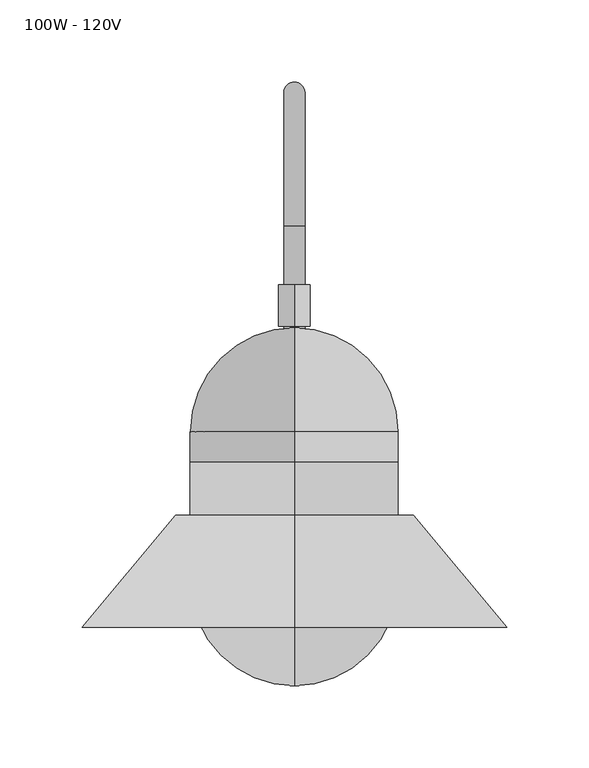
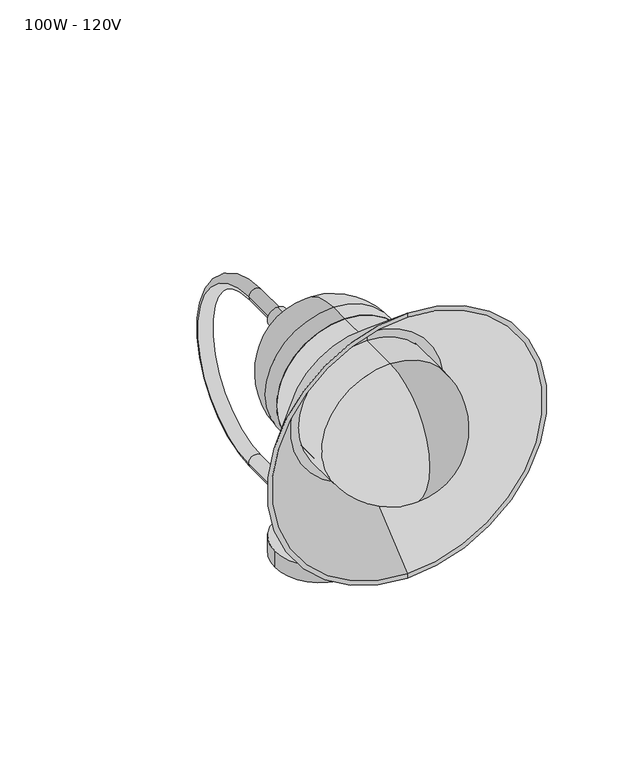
"""IFC4 building model written with IfcOpenShell, lengths in millimetres: light fixture geometry, M_Luminária de parede - Arandela : 100W - 120V."""

import ifcopenshell
import ifcopenshell.guid

model = None  # the IFC model being written
_history = None  # IfcOwnerHistory: only IFC2X3 demands one
_inside = {}  # id of a spatial element -> (the spatial element, [elements in it])
_under = {}  # id of a project, library or spatial element -> (it, [spatial elements below it])
_declared = {}  # id of a project -> (the project, [libraries it declares])
_typed = {}  # id of a type object -> (the type object, [elements of that type])
_made_of = {}  # id of a material, layer set ... -> (it, [elements and type objects made of it])


def new_model(schema):
    """Start an empty IFC model of exactly this schema.

    Asked for "IFC4X3", IfcOpenShell would pick the latest addendum, in which some entities
    have other attributes; the version numbers below select the first issue.
    IFC2X3 requires an IfcOwnerHistory on every rooted entity: one is made here for all.
    """
    global model, _history
    if schema == "IFC4X3":
        model = ifcopenshell.file(schema_version=(4, 3, 0, 0))
    else:
        model = ifcopenshell.file(schema=schema)
    _inside.clear()
    _under.clear()
    _declared.clear()
    _typed.clear()
    _made_of.clear()
    _history = None
    if model.schema == "IFC2X3":
        org = make("IfcOrganization", Name="unknown")
        user = make(
            "IfcPersonAndOrganization",
            ThePerson=make("IfcPerson", FamilyName="unknown"),
            TheOrganization=org,
        )
        app = make(
            "IfcApplication",
            ApplicationDeveloper=org,
            Version="unknown",
            ApplicationFullName="unknown",
            ApplicationIdentifier="unknown",
        )
        _history = make(
            "IfcOwnerHistory",
            OwningUser=user,
            OwningApplication=app,
            ChangeAction="ADDED",
            CreationDate=0,
        )
    return model


def make(cls, **values):
    """One entity of the class cls with the attributes given. An attribute that is None is left unset."""
    return model.create_entity(
        cls, **{name: value for name, value in values.items() if value is not None}
    )


def rooted(cls, **values):
    """An entity with a GlobalId (a new one), such as an element, a storey or a relation."""
    return make(cls, GlobalId=ifcopenshell.guid.new(), OwnerHistory=_history, **values)


def si_unit(unit_type, name, prefix=None):
    """IfcSIUnit, for example si_unit("LENGTHUNIT", "METRE", prefix="MILLI")."""
    return make("IfcSIUnit", UnitType=unit_type, Prefix=prefix, Name=name)


def assignment(units):
    """IfcUnitAssignment: the units of a project."""
    return None if units is None else make("IfcUnitAssignment", Units=units)


def point(xyz):
    """IfcCartesianPoint."""
    return None if xyz is None else make("IfcCartesianPoint", Coordinates=xyz)


def direction(xyz):
    """IfcDirection."""
    return None if xyz is None else make("IfcDirection", DirectionRatios=xyz)


def frame(location, z_axis=None, x_axis=None):
    """IfcAxis2Placement3D, a coordinate frame: its origin and axes. An axis left out is left unset."""
    return make(
        "IfcAxis2Placement3D",
        Location=point(location),
        Axis=direction(z_axis),
        RefDirection=direction(x_axis),
    )


def origin():
    """The frame at (0, 0, 0) with its axes left unset."""
    return frame((0.0, 0.0, 0.0))


def origin_with_axes():
    """The frame at (0, 0, 0) with the z axis (0, 0, 1) and the x axis (1, 0, 0) written out."""
    return frame((0.0, 0.0, 0.0), z_axis=(0.0, 0.0, 1.0), x_axis=(1.0, 0.0, 0.0))


def place(relative_to, where):
    """IfcLocalPlacement: puts the frame where relative to a parent placement (None: the world)."""
    return make(
        "IfcLocalPlacement", PlacementRelTo=relative_to, RelativePlacement=where
    )


def context(
    kind, dimensions, precision=None, world=None, true_north=None, identifier=None
):
    """IfcGeometricRepresentationContext, for example the 3D "Model" context."""
    return make(
        "IfcGeometricRepresentationContext",
        ContextIdentifier=identifier,
        ContextType=kind,
        CoordinateSpaceDimension=dimensions,
        Precision=precision,
        WorldCoordinateSystem=world,
        TrueNorth=true_north,
    )


def project(units=None, contexts=None):
    """IfcProject with its units and contexts."""
    return rooted(
        "IfcProject",
        Name="project",
        RepresentationContexts=contexts,
        UnitsInContext=assignment(units),
    )


def spatial(cls, under=None, at=None, **own):
    """A site, building, storey or space (cls), placed at a placement, below another one or the project."""
    s = rooted(cls, ObjectPlacement=at, **own)
    if under is not None:
        _under.setdefault(under.id(), (under, []))[1].append(s)
    return s


def polyline(points):
    """IfcPolyline through the points."""
    return make("IfcPolyline", Points=[point(p) for p in points])


def circle_curve(where, radius):
    """IfcCircle in the frame where."""
    return make("IfcCircle", Position=where, Radius=radius)


def ellipse_curve(where, semi_axis1, semi_axis2):
    """IfcEllipse in the frame where."""
    return make(
        "IfcEllipse", Position=where, SemiAxis1=semi_axis1, SemiAxis2=semi_axis2
    )


def trimmed(basis, trim1, trim2, sense, master):
    """IfcTrimmedCurve: the piece of a basis curve between two trims."""
    return make(
        "IfcTrimmedCurve",
        BasisCurve=basis,
        Trim1=trim1,
        Trim2=trim2,
        SenseAgreement=sense,
        MasterRepresentation=master,
    )


def shape(context_of_items, identifier, shape_type, items):
    """IfcShapeRepresentation: the items that make up one representation, for example the "Body"."""
    return make(
        "IfcShapeRepresentation",
        ContextOfItems=context_of_items,
        RepresentationIdentifier=identifier,
        RepresentationType=shape_type,
        Items=items,
    )


def source(mapping_origin, context_of_items, identifier, shape_type, items):
    """IfcRepresentationMap: a shape defined once, which mapped items show again and again."""
    return make(
        "IfcRepresentationMap",
        MappingOrigin=mapping_origin,
        MappedRepresentation=shape(context_of_items, identifier, shape_type, items),
    )


def transform(
    local_origin,
    x_axis=None,
    y_axis=None,
    z_axis=None,
    scale=None,
    scale2=None,
    scale3=None,
    uniform=True,
):
    """IfcCartesianTransformationOperator3D, or its non-uniform kind. x_axis, y_axis, z_axis: its Axis1, 2, 3."""
    if uniform:
        return make(
            "IfcCartesianTransformationOperator3D",
            Axis1=direction(x_axis),
            Axis2=direction(y_axis),
            LocalOrigin=point(local_origin),
            Scale=scale,
            Axis3=direction(z_axis),
        )
    return make(
        "IfcCartesianTransformationOperator3DnonUniform",
        Axis1=direction(x_axis),
        Axis2=direction(y_axis),
        LocalOrigin=point(local_origin),
        Scale=scale,
        Axis3=direction(z_axis),
        Scale2=scale2,
        Scale3=scale3,
    )


def mapped(mapping_source, mapping_target):
    """IfcMappedItem: shows the shape of a source again, moved by a transform."""
    return make(
        "IfcMappedItem", MappingSource=mapping_source, MappingTarget=mapping_target
    )


def made_of(thing, what):
    """Note that an element or type object is made of a material, layer set ...; save() writes the relation."""
    if what is not None:
        _made_of.setdefault(what.id(), (what, []))[1].append(thing)
    return thing


def element(
    cls,
    number,
    at=None,
    inside=None,
    cuts=None,
    type_object=None,
    material=None,
    context=None,
    identifier="Body",
    shape_type=None,
    held_by="IfcProductDefinitionShape",
    body=None,
    shapes=None,
    **own,
):
    """One element of the class cls, such as IfcWall. Its Tag is "e" and its number.

    at: its placement. inside: the storey or other place that contains it. cuts: it is an
    opening in that element (IfcRelVoidsElement). A single representation is given by context,
    identifier, shape_type and body (its items); several are given by shapes. held_by: the class
    of the entity that holds the representations. save() writes the other relations.
    """
    e = rooted(cls, Tag="e%d" % number, ObjectPlacement=at, **own)
    if body is not None:
        shapes = [shape(context, identifier, shape_type, body)]
    if shapes is not None:
        e.Representation = make(held_by, Representations=shapes)
    if inside is not None:
        _inside.setdefault(inside.id(), (inside, []))[1].append(e)
    if cuts is not None:
        rooted(
            "IfcRelVoidsElement", RelatingBuildingElement=cuts, RelatedOpeningElement=e
        )
    if type_object is not None:
        _typed.setdefault(type_object.id(), (type_object, []))[1].append(e)
    return made_of(e, material)


def aggregate(whole, parts):
    """IfcRelAggregates: a whole, such as a stair, and the parts it consists of."""
    return rooted("IfcRelAggregates", RelatingObject=whole, RelatedObjects=parts)


def save(model, path):
    """Write the relations noted so far, then the file.

    IfcRelAggregates (storeys below a building ...), IfcRelContainedInSpatialStructure (elements
    in a storey), IfcRelDefinesByType, IfcRelAssociatesMaterial and IfcRelDeclares: one each for
    every whole, place, type object, material and project.
    """
    for whole, parts in _under.values():
        aggregate(whole, parts)
    for where, things in _inside.values():
        rooted(
            "IfcRelContainedInSpatialStructure",
            RelatedElements=things,
            RelatingStructure=where,
        )
    for kind, things in _typed.values():
        rooted("IfcRelDefinesByType", RelatedObjects=things, RelatingType=kind)
    for what, things in _made_of.values():
        rooted("IfcRelAssociatesMaterial", RelatedObjects=things, RelatingMaterial=what)
    for by, libraries in _declared.values():
        rooted("IfcRelDeclares", RelatingContext=by, RelatedDefinitions=libraries)
    model.write(path)


def plane_surface(at):
    """IfcPlane: the flat surface through the origin of the frame at, square to its z axis."""
    return make("IfcPlane", Position=at)


def cylinder_surface(at, radius):
    """IfcCylindricalSurface: all points at the distance radius from the z axis of the frame at."""
    return make("IfcCylindricalSurface", Position=at, Radius=radius)


def revolved_surface(curve, axis_point, axis_direction):
    """IfcSurfaceOfRevolution: the curve turned about the line through axis_point along axis_direction."""
    return make(
        "IfcSurfaceOfRevolution",
        SweptCurve=make("IfcArbitraryOpenProfileDef", ProfileType="CURVE", Curve=curve),
        AxisPosition=make("IfcAxis1Placement", Location=point(axis_point), Axis=direction(axis_direction)),
    )


def advanced_brep(points, edges, surfaces, faces):
    """IfcAdvancedBrep: a solid bounded by faces that lie on surfaces and meet in shared edges.

    An edge is (start, end): straight between two places in points (the first is 0);
    or (start, end, curve); or (start, end, curve, False) where it runs against its curve.
    A face is (place in surfaces, loops), or (place, loops, False) where it looks against
    its surface's normal. A loop lists edges by number (the first is 1), with a minus sign
    where the edge is run from its end to its start. The first loop is the outer one.
    """
    corners = [point(p) for p in points]
    vertices = [make("IfcVertexPoint", VertexGeometry=c) for c in corners]
    made = []
    for start, end, *more in edges:
        made.append(
            make(
                "IfcEdgeCurve",
                EdgeStart=vertices[start],
                EdgeEnd=vertices[end],
                EdgeGeometry=more[0] if more else make("IfcPolyline", Points=[corners[start], corners[end]]),
                SameSense=more[1] if len(more) > 1 else True,
            )
        )
    hull = []
    for where, loops, *sense in faces:
        bounds = []
        for j, loop in enumerate(loops):
            ring = [make("IfcOrientedEdge", EdgeElement=made[abs(k) - 1], Orientation=k > 0) for k in loop]
            bounds.append(
                make(
                    "IfcFaceOuterBound" if j == 0 else "IfcFaceBound",
                    Bound=make("IfcEdgeLoop", EdgeList=ring),
                    Orientation=True,
                )
            )
        hull.append(make("IfcAdvancedFace", Bounds=bounds, FaceSurface=surfaces[where], SameSense=sense[0] if sense else True))
    return make("IfcAdvancedBrep", Outer=make("IfcClosedShell", CfsFaces=hull))


def light_fixture_100w_120v_0846f9e9(model_context):
    return source(origin(), model_context, "Body", "AdvancedBrep", [
        advanced_brep(
        [(0.0, 27.78125, 15.875), (0.0, 27.78125, 34.925), (0.0, 27.78125, 31.75), (-6.35, 27.78125, 25.4), (0.0, 27.78125, 19.05), (6.35, 27.78125, 25.4), (0.0, 0.0, 34.925), (0.0, 0.0, 15.875), (0.0, -9.525, 25.4), (6.35, 105.56875, 25.4), (-6.35, 105.56875, 25.4), (6.35, 105.56875, 188.9125), (-6.35, 105.56875, 188.9125), (6.35, 69.85, 188.9125), (0.0, 69.85, 182.5625), (-6.35, 69.85, 188.9125), (0.0, 69.85, 195.2625), (0.0, 44.45, 198.4375), (0.0, 44.45, 179.3875), (0.0, 44.45, 188.9125), (0.0, 69.85, 198.4375), (0.0, 69.85, 179.3875)],
        [
            (0, 1, circle_curve(frame((0.0, 27.78125, 25.4), z_axis=(0.0, 1.0, 0.0), x_axis=(0.0, 0.0, -1.0)), 9.525)),
            (1, 2),
            (2, 3, circle_curve(frame((0.0, 27.78125, 25.4), z_axis=(0.0, -1.0, 0.0), x_axis=(-1.0, 0.0, 0.0)), 6.35)),
            (3, 4, circle_curve(frame((0.0, 27.78125, 25.4), z_axis=(0.0, -1.0, 0.0), x_axis=(-1.0, 0.0, 0.0)), 6.35)),
            (4, 0),
            (1, 0, circle_curve(frame((0.0, 27.78125, 25.4), z_axis=(0.0, 1.0, 0.0), x_axis=(0.0, 0.0, -1.0)), 9.525)),
            (4, 5, circle_curve(frame((0.0, 27.78125, 25.4), z_axis=(0.0, -1.0, 0.0), x_axis=(-1.0, 0.0, 0.0)), 6.35)),
            (5, 2, circle_curve(frame((0.0, 27.78125, 25.4), z_axis=(0.0, -1.0, 0.0), x_axis=(-1.0, 0.0, 0.0)), 6.35)),
            (6, 7, circle_curve(frame((0.0, 0.0, 25.4), z_axis=(0.0, -1.0, 0.0), x_axis=(0.0, 0.0, -1.0)), 9.525)),
            (7, 8, circle_curve(frame((0.0, 0.0, 25.4), z_axis=(-1.0, 0.0, 0.0), x_axis=(0.0, -1.0, 0.0)), 9.525)),
            (8, 6, circle_curve(frame((0.0, 0.0, 25.4), z_axis=(-1.0, 0.0, 0.0), x_axis=(0.0, -1.0, 0.0)), 9.525)),
            (7, 6, circle_curve(frame((0.0, 0.0, 25.4), z_axis=(0.0, -1.0, 0.0), x_axis=(0.0, 0.0, -1.0)), 9.525)),
            (0, 7),
            (6, 1),
            (9, 10, circle_curve(frame((0.0, 105.56875, 25.4), z_axis=(0.0, -1.0, 0.0), x_axis=(-1.0, 0.0, 0.0)), 6.35)),
            (10, 3),
            (5, 9),
            (10, 9, circle_curve(frame((0.0, 105.56875, 25.4), z_axis=(0.0, -1.0, 0.0), x_axis=(-1.0, 0.0, 0.0)), 6.35)),
            (9, 11, circle_curve(frame((6.35, 105.56875, 107.15625), z_axis=(1.0, 0.0, 0.0), x_axis=(0.0, 0.0, -1.0)), 81.75625)),
            (11, 12, circle_curve(frame((0.0, 105.56875, 188.9125), z_axis=(0.0, 1.0, 0.0), x_axis=(-1.0, 0.0, 0.0)), 6.35)),
            (12, 10, circle_curve(frame((-6.35, 105.56875, 107.15625), z_axis=(-1.0, 0.0, 0.0), x_axis=(0.0, 0.0, -1.0)), 81.75625)),
            (12, 11, circle_curve(frame((0.0, 105.56875, 188.9125), z_axis=(0.0, 1.0, 0.0), x_axis=(-1.0, 0.0, 0.0)), 6.35)),
            (11, 13),
            (13, 14, circle_curve(frame((0.0, 69.85, 188.9125), z_axis=(0.0, 1.0, 0.0), x_axis=(-1.0, 0.0, 0.0)), 6.35)),
            (14, 15, circle_curve(frame((0.0, 69.85, 188.9125), z_axis=(0.0, 1.0, 0.0), x_axis=(-1.0, 0.0, 0.0)), 6.35)),
            (15, 12),
            (15, 16, circle_curve(frame((0.0, 69.85, 188.9125), z_axis=(0.0, 1.0, 0.0), x_axis=(-1.0, 0.0, 0.0)), 6.35)),
            (16, 13, circle_curve(frame((0.0, 69.85, 188.9125), z_axis=(0.0, 1.0, 0.0), x_axis=(-1.0, 0.0, 0.0)), 6.35)),
            (17, 18, circle_curve(frame((0.0, 44.45, 188.9125), z_axis=(0.0, -1.0, 0.0), x_axis=(0.0, 0.0, -1.0)), 9.525)),
            (18, 19),
            (19, 17),
            (18, 17, circle_curve(frame((0.0, 44.45, 188.9125), z_axis=(0.0, -1.0, 0.0), x_axis=(0.0, 0.0, -1.0)), 9.525)),
            (17, 20),
            (20, 21, circle_curve(frame((0.0, 69.85, 188.9125), z_axis=(0.0, -1.0, 0.0), x_axis=(0.0, 0.0, -1.0)), 9.525)),
            (21, 18),
            (21, 20, circle_curve(frame((0.0, 69.85, 188.9125), z_axis=(0.0, -1.0, 0.0), x_axis=(0.0, 0.0, -1.0)), 9.525)),
            (20, 16),
            (14, 21),
        ],
        [
            plane_surface(frame((0.0, 27.78125, 25.4), z_axis=(0.0, 1.0, 0.0), x_axis=(0.0, 0.0, -1.0))),
            revolved_surface(trimmed(ellipse_curve(frame((0.0, 0.0, 25.4), z_axis=(1.0, 0.0, 0.0), x_axis=(0.0, -1.0, 0.0)), 9.525, 9.525), [point((0.0, -9.525, 25.4))], [point((0.0, 0.0, 15.875))], True, "CARTESIAN"), (0.0, 27.78125, 25.4), (0.0, 1.0, 0.0)),
            cylinder_surface(frame((0.0, 27.78125, 25.4), z_axis=(0.0, 1.0, 0.0), x_axis=(0.0, 0.0, -1.0)), 9.525),
            cylinder_surface(frame((0.0, 10.31875, 25.4), z_axis=(0.0, -1.0, 0.0), x_axis=(-1.0, 0.0, 0.0)), 6.35),
            revolved_surface(trimmed(ellipse_curve(frame((0.0, 105.56875, 25.4), z_axis=(0.0, -1.0, 0.0), x_axis=(-1.0, 0.0, 0.0)), 6.35, 6.35), [point((6.35, 105.56875, 25.4))], [point((-6.35, 105.56875, 25.4))], True, "CARTESIAN"), (0.0, 105.56875, 107.15625), (1.0, 0.0, 0.0)),
            revolved_surface(trimmed(ellipse_curve(frame((0.0, 105.56875, 25.4), z_axis=(0.0, -1.0, 0.0), x_axis=(-1.0, 0.0, 0.0)), 6.35, 6.35), [point((-6.35, 105.56875, 25.4))], [point((6.35, 105.56875, 25.4))], True, "CARTESIAN"), (0.0, 105.56875, 107.15625), (1.0, 0.0, 0.0)),
            cylinder_surface(frame((0.0, 105.56875, 188.9125), z_axis=(0.0, 1.0, 0.0), x_axis=(-1.0, 0.0, 0.0)), 6.35),
            plane_surface(frame((0.0, 44.45, 188.9125), z_axis=(0.0, -1.0, 0.0), x_axis=(0.0, 0.0, -1.0))),
            cylinder_surface(frame((0.0, 47.625, 188.9125), z_axis=(0.0, 1.0, 0.0), x_axis=(0.0, 0.0, -1.0)), 9.525),
            plane_surface(frame((0.0, 69.85, 188.9125), z_axis=(0.0, 1.0, 0.0), x_axis=(0.0, 0.0, -1.0))),
        ],
        [
            (0, [[1, 2, 3, 4, 5]]),
            (0, [[6, -5, 7, 8, -2]]),
            (1, [[9, 10, 11]]),
            (1, [[-10, 12, -11]]),
            (2, [[-1, 13, -9, 14]]),
            (2, [[-6, -14, -12, -13]]),
            (3, [[15, 16, -3, -8, 17]]),
            (3, [[18, -17, -7, -4, -16]]),
            (4, [[-15, 19, 20, 21]]),
            (5, [[-18, -21, 22, -19]]),
            (6, [[-20, 23, 24, 25, 26]]),
            (6, [[-22, -26, 27, 28, -23]]),
            (7, [[29, 30, 31]]),
            (7, [[-30, 32, -31]]),
            (8, [[-29, 33, 34, 35]]),
            (8, [[-32, -35, 36, -33]]),
            (9, [[-34, 37, -27, -25, 38]]),
            (9, [[-36, -38, -24, -28, -37]]),
        ],
    ),
        advanced_brep(
        [(-43.0609375, 0.0, 15.875), (43.0609375, 0.0, 15.875), (-43.0609375, 0.0, 0.0), (43.0609375, 0.0, 0.0)],
        [
            (0, 1, circle_curve(frame((0.0, 0.0, 15.875), z_axis=(0.0, 0.0, 1.0), x_axis=(1.0, 0.0, 0.0)), 43.0609375)),
            (1, 0, circle_curve(frame((0.0, 0.0, 15.875), z_axis=(0.0, 0.0, 1.0), x_axis=(1.0, 0.0, 0.0)), 43.0609375)),
            (2, 3, circle_curve(frame((0.0, 0.0, 0.0), z_axis=(0.0, 0.0, -1.0), x_axis=(1.0, 0.0, 0.0)), 43.0609375)),
            (3, 2, circle_curve(frame((0.0, 0.0, 0.0), z_axis=(0.0, 0.0, -1.0), x_axis=(1.0, 0.0, 0.0)), 43.0609375)),
            (0, 2),
            (3, 1),
        ],
        [
            plane_surface(frame((43.0609375, 0.0, 15.875), z_axis=(0.0, 0.0, 1.0), x_axis=(0.0, 1.0, 0.0))),
            plane_surface(frame((43.0609375, 0.0, 0.0), z_axis=(0.0, 0.0, -1.0), x_axis=(0.0, -1.0, 0.0))),
            cylinder_surface(origin_with_axes(), 43.0609375),
        ],
        [
            (0, [[1, 2]]),
            (1, [[3, 4]]),
            (2, [[-1, 5, -4, 6]]),
            (2, [[-2, -6, -3, -5]]),
        ],
    ),
        advanced_brep(
        [(0.0, -38.1, 252.4125), (0.0, -38.1, 125.4125), (0.0, -38.1, 188.9125), (0.0, -19.84375, 252.4125), (0.0, -19.84375, 125.4125), (0.0, 43.65625, 188.9125)],
        [
            (0, 1, circle_curve(frame((0.0, -38.1, 188.9125), z_axis=(0.0, -1.0, 0.0), x_axis=(0.0, 0.0, -1.0)), 63.5)),
            (1, 2),
            (2, 0),
            (1, 0, circle_curve(frame((0.0, -38.1, 188.9125), z_axis=(0.0, -1.0, 0.0), x_axis=(0.0, 0.0, -1.0)), 63.5)),
            (0, 3),
            (3, 4, circle_curve(frame((0.0, -19.84375, 188.9125), z_axis=(0.0, -1.0, 0.0), x_axis=(0.0, 0.0, -1.0)), 63.5)),
            (4, 1),
            (4, 3, circle_curve(frame((0.0, -19.84375, 188.9125), z_axis=(0.0, -1.0, 0.0), x_axis=(0.0, 0.0, -1.0)), 63.5)),
            (3, 5, circle_curve(frame((0.0, -19.84375, 188.9125), z_axis=(-1.0, 0.0, 0.0), x_axis=(0.0, -1.0, 0.0)), 63.5)),
            (5, 4, circle_curve(frame((0.0, -19.84375, 188.9125), z_axis=(-1.0, 0.0, 0.0), x_axis=(0.0, -1.0, 0.0)), 63.5)),
        ],
        [
            plane_surface(frame((0.0, -38.1, 188.9125), z_axis=(0.0, -1.0, 0.0), x_axis=(0.0, 0.0, -1.0))),
            cylinder_surface(frame((0.0, 43.65625, 188.9125), z_axis=(0.0, 1.0, 0.0), x_axis=(0.0, 0.0, -1.0)), 63.5),
            revolved_surface(trimmed(ellipse_curve(frame((0.0, -19.84375, 188.9125), z_axis=(1.0, 0.0, 0.0), x_axis=(0.0, -1.0, 0.0)), 63.5, 63.5), [point((0.0, -19.84375, 125.4125))], [point((0.0, 43.65625, 188.9125))], True, "CARTESIAN"), (0.0, 43.65625, 188.9125), (0.0, 1.0, 0.0)),
        ],
        [
            (0, [[1, 2, 3]]),
            (0, [[-2, 4, -3]]),
            (1, [[-1, 5, 6, 7]]),
            (1, [[-4, -7, 8, -5]]),
            (2, [[-6, 9, 10]]),
            (2, [[-8, -10, -9]]),
        ],
    ),
        advanced_brep(
        [(0.0, -174.625, 188.9125), (0.0, -111.125, 252.4125), (0.0, -111.125, 125.4125), (0.0, -70.64375, 125.4125), (0.0, -70.64375, 252.4125), (0.0, -70.64375, 188.9125)],
        [
            (0, 1, circle_curve(frame((0.0, -111.125, 188.9125), z_axis=(-1.0, 0.0, 0.0), x_axis=(0.0, -1.0, 0.0)), 63.5)),
            (1, 2, circle_curve(frame((0.0, -111.125, 188.9125), z_axis=(0.0, -1.0, 0.0), x_axis=(0.0, 0.0, 1.0)), 63.5)),
            (2, 0, circle_curve(frame((0.0, -111.125, 188.9125), z_axis=(-1.0, 0.0, 0.0), x_axis=(0.0, -1.0, 0.0)), 63.5)),
            (2, 1, circle_curve(frame((0.0, -111.125, 188.9125), z_axis=(0.0, -1.0, 0.0), x_axis=(0.0, 0.0, 1.0)), 63.5)),
            (3, 4, circle_curve(frame((0.0, -70.64375, 188.9125), z_axis=(0.0, 1.0, 0.0), x_axis=(0.0, 0.0, 1.0)), 63.5)),
            (4, 5),
            (5, 3),
            (4, 3, circle_curve(frame((0.0, -70.64375, 188.9125), z_axis=(0.0, 1.0, 0.0), x_axis=(0.0, 0.0, 1.0)), 63.5)),
            (1, 4),
            (3, 2),
        ],
        [
            revolved_surface(trimmed(ellipse_curve(frame((0.0, -111.125, 188.9125), z_axis=(1.0, 0.0, 0.0), x_axis=(0.0, -1.0, 0.0)), 63.5, 63.5), [point((0.0, -111.125, 252.4125))], [point((0.0, -174.625, 188.9125))], True, "CARTESIAN"), (0.0, -70.64375, 188.9125), (0.0, -1.0, 0.0)),
            plane_surface(frame((0.0, -70.64375, 188.9125), z_axis=(0.0, 1.0, 0.0), x_axis=(0.0, 0.0, 1.0))),
            cylinder_surface(frame((0.0, -70.64375, 188.9125), z_axis=(0.0, -1.0, 0.0), x_axis=(0.0, 0.0, 1.0)), 63.5),
        ],
        [
            (0, [[1, 2, 3]]),
            (0, [[-3, 4, -1]]),
            (1, [[5, 6, 7]]),
            (1, [[8, -7, -6]]),
            (2, [[-2, 9, -5, 10]]),
            (2, [[-4, -10, -8, -9]]),
        ],
    ),
        advanced_brep(
        [(0.0, -70.64375, 115.9944732), (0.0, -70.64375, 261.8305268), (0.0, -70.64375, 252.4125), (0.0, -70.64375, 125.4125), (0.0, -138.90625, 58.7154346), (0.0, -138.90625, 319.1095654), (0.0, -138.90625, 62.8601028), (0.0, -138.90625, 314.9648972), (0.0, -73.81875, 117.475), (0.0, -73.81875, 260.35), (0.0, -73.81875, 128.5875), (0.0, -73.81875, 249.2375), (0.0, -38.1, 128.5875), (0.0, -38.1, 249.2375), (0.0, -38.1, 125.4125), (0.0, -38.1, 252.4125)],
        [
            (0, 1, circle_curve(frame((0.0, -70.64375, 188.9125), z_axis=(0.0, 1.0, 0.0), x_axis=(0.0, 0.0, 1.0)), 72.9180268)),
            (1, 2),
            (2, 3, circle_curve(frame((0.0, -70.64375, 188.9125), z_axis=(0.0, -1.0, 0.0), x_axis=(0.0, 0.0, 1.0)), 63.5)),
            (3, 0),
            (1, 0, circle_curve(frame((0.0, -70.64375, 188.9125), z_axis=(0.0, 1.0, 0.0), x_axis=(0.0, 0.0, 1.0)), 72.9180268)),
            (3, 2, circle_curve(frame((0.0, -70.64375, 188.9125), z_axis=(0.0, -1.0, 0.0), x_axis=(0.0, 0.0, 1.0)), 63.5)),
            (4, 5, circle_curve(frame((0.0, -138.90625, 188.9125), z_axis=(0.0, 1.0, 0.0), x_axis=(0.0, 0.0, 1.0)), 130.1970654)),
            (5, 1),
            (0, 4),
            (5, 4, circle_curve(frame((0.0, -138.90625, 188.9125), z_axis=(0.0, 1.0, 0.0), x_axis=(0.0, 0.0, 1.0)), 130.1970654)),
            (6, 7, circle_curve(frame((0.0, -138.90625, 188.9125), z_axis=(0.0, 1.0, 0.0), x_axis=(0.0, 0.0, 1.0)), 126.0523972)),
            (7, 5),
            (4, 6),
            (7, 6, circle_curve(frame((0.0, -138.90625, 188.9125), z_axis=(0.0, 1.0, 0.0), x_axis=(0.0, 0.0, 1.0)), 126.0523972)),
            (8, 9, circle_curve(frame((0.0, -73.81875, 188.9125), z_axis=(0.0, 1.0, 0.0), x_axis=(0.0, 0.0, 1.0)), 71.4375)),
            (9, 7),
            (6, 8),
            (9, 8, circle_curve(frame((0.0, -73.81875, 188.9125), z_axis=(0.0, 1.0, 0.0), x_axis=(0.0, 0.0, 1.0)), 71.4375)),
            (10, 11, circle_curve(frame((0.0, -73.81875, 188.9125), z_axis=(0.0, 1.0, 0.0), x_axis=(0.0, 0.0, 1.0)), 60.325)),
            (11, 9),
            (8, 10),
            (11, 10, circle_curve(frame((0.0, -73.81875, 188.9125), z_axis=(0.0, 1.0, 0.0), x_axis=(0.0, 0.0, 1.0)), 60.325)),
            (12, 13, circle_curve(frame((0.0, -38.1, 188.9125), z_axis=(0.0, 1.0, 0.0), x_axis=(0.0, 0.0, 1.0)), 60.325)),
            (13, 11),
            (10, 12),
            (13, 12, circle_curve(frame((0.0, -38.1, 188.9125), z_axis=(0.0, 1.0, 0.0), x_axis=(0.0, 0.0, 1.0)), 60.325)),
            (14, 15, circle_curve(frame((0.0, -38.1, 188.9125), z_axis=(0.0, 1.0, 0.0), x_axis=(0.0, 0.0, 1.0)), 63.5)),
            (15, 13),
            (12, 14),
            (15, 14, circle_curve(frame((0.0, -38.1, 188.9125), z_axis=(0.0, 1.0, 0.0), x_axis=(0.0, 0.0, 1.0)), 63.5)),
            (2, 15),
            (14, 3),
        ],
        [
            plane_surface(frame((0.0, -70.64375, 188.9125), z_axis=(0.0, 1.0, 0.0), x_axis=(0.0, 0.0, 1.0))),
            revolved_surface(polyline([(0.0, -70.64375, 261.8305268), (0.0, -138.90625, 319.1095654)]), (0.0, -38.1, 188.9125), (0.0, -1.0, 0.0)),
            plane_surface(frame((0.0, -138.90625, 188.9125), z_axis=(0.0, -1.0, 0.0), x_axis=(0.0, 0.0, 1.0))),
            revolved_surface(polyline([(0.0, -138.90625, 314.9648972), (0.0, -73.81875, 260.35)]), (0.0, -38.1, 188.9125), (0.0, -1.0, 0.0)),
            plane_surface(frame((0.0, -73.81875, 188.9125), z_axis=(0.0, -1.0, 0.0), x_axis=(0.0, 0.0, 1.0))),
            revolved_surface(polyline([(0.0, -73.81875, 249.2375), (0.0, -38.1, 249.2375)]), (0.0, -38.1, 188.9125), (0.0, -1.0, 0.0)),
            plane_surface(frame((0.0, -38.1, 188.9125), z_axis=(0.0, 1.0, 0.0), x_axis=(0.0, 0.0, 1.0))),
            cylinder_surface(frame((0.0, -38.1, 188.9125), z_axis=(0.0, -1.0, 0.0), x_axis=(0.0, 0.0, 1.0)), 63.5),
        ],
        [
            (0, [[1, 2, 3, 4]]),
            (0, [[5, -4, 6, -2]]),
            (1, [[7, 8, -1, 9]]),
            (1, [[10, -9, -5, -8]]),
            (2, [[11, 12, -7, 13]]),
            (2, [[14, -13, -10, -12]]),
            (3, [[15, 16, -11, 17]]),
            (3, [[18, -17, -14, -16]]),
            (4, [[19, 20, -15, 21]]),
            (4, [[22, -21, -18, -20]]),
            (5, [[23, 24, -19, 25]]),
            (5, [[26, -25, -22, -24]]),
            (6, [[27, 28, -23, 29]]),
            (6, [[30, -29, -26, -28]]),
            (7, [[-3, 31, -27, 32]]),
            (7, [[-6, -32, -30, -31]]),
        ],
    ),
    ])


if __name__ == "__main__":
    model = new_model("IFC4")
    model_context = context("Model", 3, world=origin())
    ifc_project = project(units=[si_unit("LENGTHUNIT", "METRE", prefix="MILLI")], contexts=[model_context])
    site = spatial("IfcSite", under=ifc_project)
    building = spatial("IfcBuilding", under=site)
    placement = place(None, origin())
    light_fixture_100w_120v_shape = light_fixture_100w_120v_0846f9e9(model_context)
    element("IfcLightFixture", 1, ObjectType="M_Luminária de parede - Arandela : 100W - 120V", at=placement, inside=building, context=model_context, shape_type="MappedRepresentation", body=[
        mapped(light_fixture_100w_120v_shape, transform((0.0, 0.0, 0.0), x_axis=(1.0, 0.0, 0.0), y_axis=(0.0, 1.0, 0.0), z_axis=(0.0, 0.0, 1.0))),
    ])
    save(model, "model.ifc")
